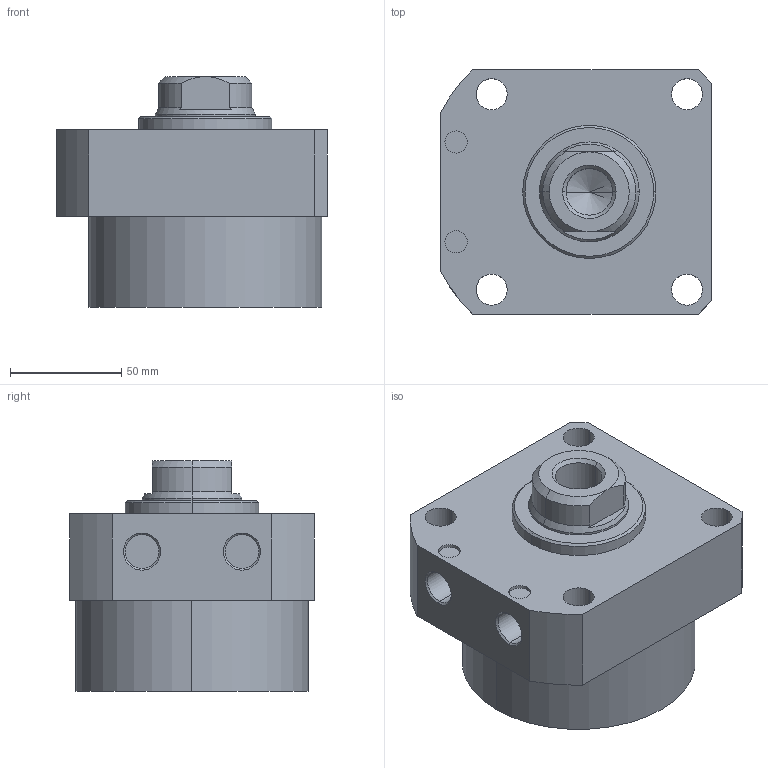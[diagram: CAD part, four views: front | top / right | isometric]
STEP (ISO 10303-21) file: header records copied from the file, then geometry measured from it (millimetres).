
FILE_DESCRIPTION (( 'STEP AP203' ), '1' );
FILE_NAME ('CLLR-105CA-020.STEP', '2019-12-19T01:28:08', ( '' ), ( '' ), 'SwSTEP 2.0', 'SolidWorks 2015', '' );
FILE_SCHEMA (( 'CONFIG_CONTROL_DESIGN' ));
Length unit declared in the file: millimetre
Products named in the file (1): CLLR-105CA-020
Bounding box: 122 x 110 x 104 mm (x, y, z)
Volume: 857165.2 mm3; surface area: 71168.2 mm2
Topology: 1 solids, 1 shells, 63 faces, 146 edges, 91 vertices
Faces by surface type: cylinder 29, plane 19, cone 15
Entity records: 1923 total; most frequent: CARTESIAN_POINT 355, DIRECTION 336, ORIENTED_EDGE 288, EDGE_CURVE 144, AXIS2_PLACEMENT_3D 136, VERTEX_POINT 91, EDGE_LOOP 79, CIRCLE 72
